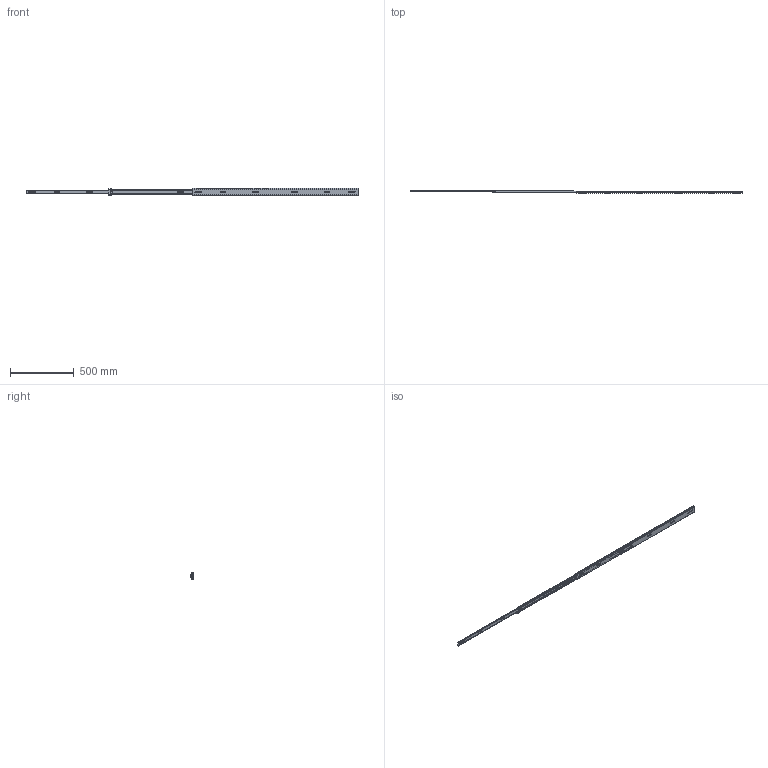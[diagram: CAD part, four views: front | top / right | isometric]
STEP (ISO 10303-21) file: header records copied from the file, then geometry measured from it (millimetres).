
FILE_DESCRIPTION((''),'2;1');
FILE_NAME('1057-C-52_ASM','2023-11-23T',('jishu015'),(''),'PRO/ENGINEER BY PARAMETRIC TECHNOLOGY CORPORATION, 2010280','PRO/ENGINEER BY PARAMETRIC TECHNOLOGY CORPORATION, 2010280','');
FILE_SCHEMA(('CONFIG_CONTROL_DESIGN'));
Products named in the file (19): KP-57-01WEIKE-31_____________; MAODING-WAI_____________; 1057DAZHUJIA-20GE1_____________; 1057ZHUJIADANWEIJIAO1234; 1057-5-6GANZHU1_____________; 1057DAZHUJIA-20GE_12_____ASM; 1057-C-20-KE______________ASM; KP-57-01ZHONGGUI-36_____; PEIJIAN-22_____________; ZHUANJIAO112_____________; LIUJIAO-DING11_____________; MAODING-P_____________; PEIJIAN-ZHONG______________ASM; 1057XIAOZHUJIA___2011_; 1057XIAOZHUJIA-20GE11__ASM; KP-57-01ZHONGGUI-36______ASM; KP-57-01NEIGUI-241_____________; KP-57-01NEIGUI-241______________ASM; 1057-C-52_ASM
Assembly tree (208 placements, depth 4):
  1057-C-52_ASM
    1057-C-20-KE______________ASM
      KP-57-01WEIKE-31_____________
      MAODING-WAI_____________  x2
      1057DAZHUJIA-20GE_12_____ASM
        1057DAZHUJIA-20GE1_____________
        1057ZHUJIADANWEIJIAO1234  x2
        1057-5-6GANZHU1_____________  x92
    KP-57-01ZHONGGUI-36______ASM
      KP-57-01ZHONGGUI-36_____
      PEIJIAN-ZHONG______________ASM  x2
        PEIJIAN-22_____________
        ZHUANJIAO112_____________
        LIUJIAO-DING11_____________
        MAODING-P_____________
      MAODING-WAI_____________  x2
      1057XIAOZHUJIA-20GE11__ASM
        1057XIAOZHUJIA___2011_
        1057-5-6GANZHU1_____________  x92
        1057ZHUJIADANWEIJIAO1234  x2
    KP-57-01NEIGUI-241______________ASM
      KP-57-01NEIGUI-241_____________
Bounding box: 2600 x 19.8 x 57.69 mm (x, y, z)
Volume: 566882.9 mm3; surface area: 664277.1 mm2
Topology: 205 solids, 205 shells, 5082 faces, 14150 edges, 8736 vertices
Faces by surface type: plane 2272, cylinder 2088, sphere 374, bspline 146, cone 114, torus 88
Entity records: 146894 total; most frequent: CARTESIAN_POINT 30555, DIRECTION 24780, ORIENTED_EDGE 24114, EDGE_CURVE 12057, AXIS2_PLACEMENT_3D 8544, VERTEX_POINT 7752, VECTOR 7692, LINE 7692
